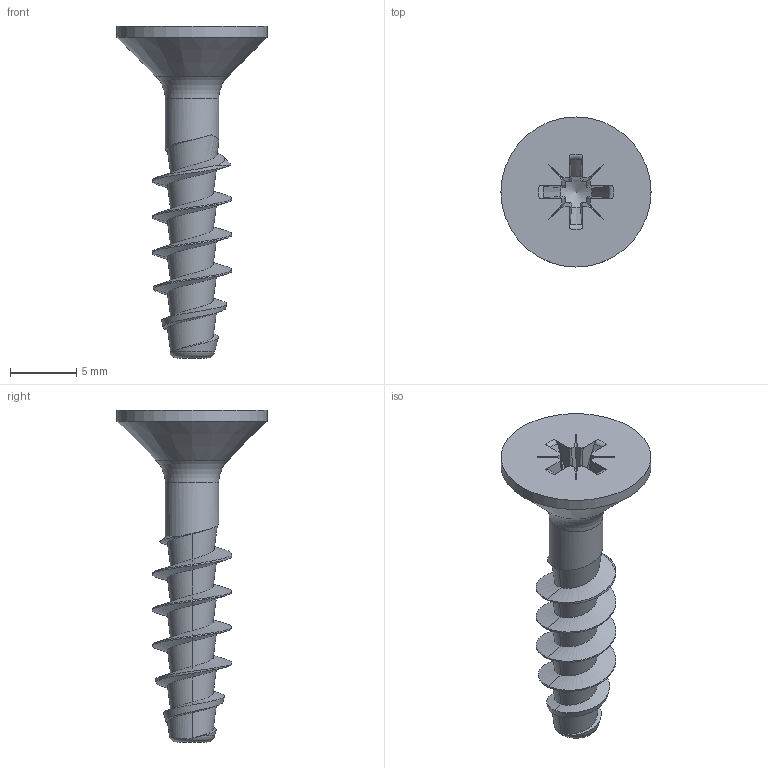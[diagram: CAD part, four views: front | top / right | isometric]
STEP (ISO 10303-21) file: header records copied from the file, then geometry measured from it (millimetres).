
FILE_DESCRIPTION(/* description */ (''),/* implementation_level */ '2;1');
FILE_NAME(/* name */ 'KN1033-STS-Neu-60x25-Z2.step',/* time_stamp */ '2017-10-20T11:53:44+02:00',/* author */ (''),/* organization */ (''),/* preprocessor_version */ 'ST-DEVELOPER v16',/* originating_system */ 'SIEMENS PLM Software NX 10.0',/* authorisation */ '');
FILE_SCHEMA (('AUTOMOTIVE_DESIGN { 1 0 10303 214 3 1 1 1 }'));
Length unit declared in the file: millimetre
Products named in the file (1): KN1033-STS-Neu-60x25-Z2
Bounding box: 11.3 x 11.3 x 25 mm (x, y, z)
Volume: 492.8 mm3; surface area: 675.5 mm2
Topology: 1 solids, 1 shells, 77 faces, 206 edges, 131 vertices
Faces by surface type: plane 30, bspline 21, cylinder 12, cone 8, torus 6
Full cylindrical faces by diameter (mm): 4.03 x1, 11.3 x1
Entity records: 3833 total; most frequent: CARTESIAN_POINT 2162, ORIENTED_EDGE 386, DIRECTION 256, EDGE_CURVE 193, VERTEX_POINT 126, LINE 86, VECTOR 86, AXIS2_PLACEMENT_3D 85
